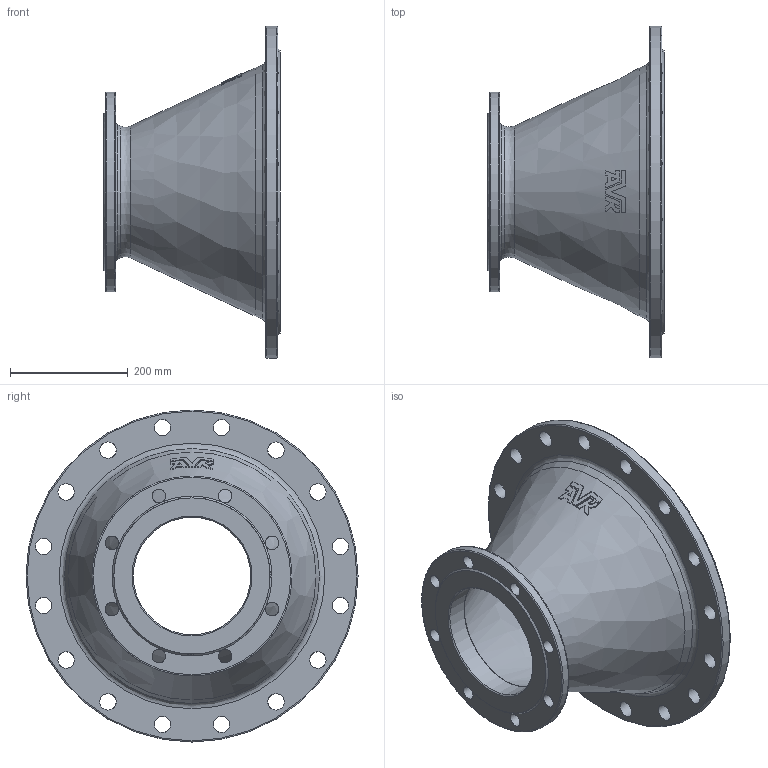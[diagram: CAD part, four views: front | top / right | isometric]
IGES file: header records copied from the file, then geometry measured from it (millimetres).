
Start section: SolidWorks IGES file using analytic representation for surfaces
Global section: file name: \\avksan2\techshare\PBM outline export from Enovia\O_712_2210_DN400_DN200_0X_REV01.igs; native system: SolidWorks 2022; preprocessor: SolidWorks 2022; author: pbm; date: 240808.085452; units: millimetre
Bounding box: 300 x 565 x 565 mm (x, y, z)
Surface area: 982599.6 mm2 (no closed solid volume)
Topology: 0 solids, 0 shells, 93 faces, 528 edges, 474 vertices
Faces by surface type: revolution 52, bspline 41
